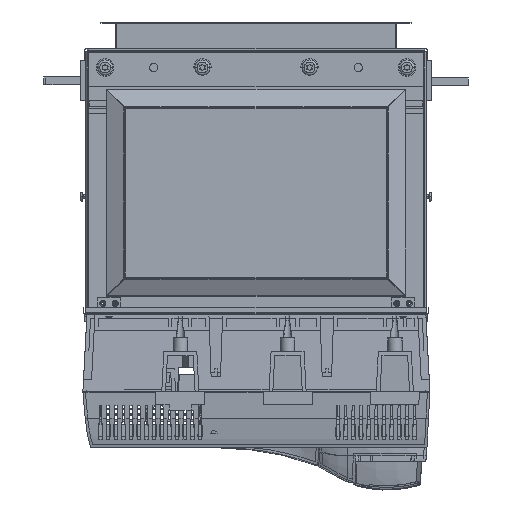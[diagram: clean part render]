
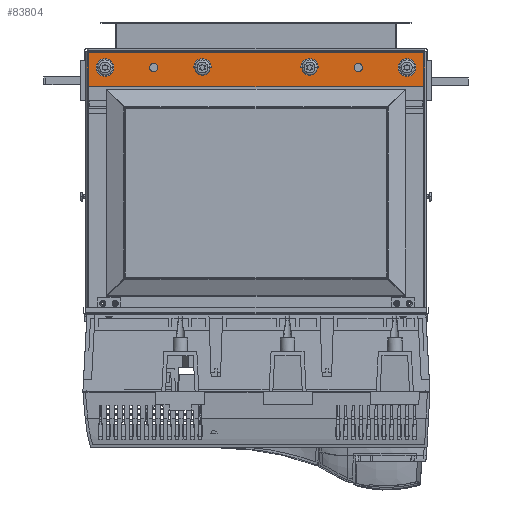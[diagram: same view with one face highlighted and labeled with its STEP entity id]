
A CAD part, front view. The second image highlights one B-rep face of the part: STEP entity #83804.
In plain terms, the highlighted planar face has unit normal (0, -1, 0).
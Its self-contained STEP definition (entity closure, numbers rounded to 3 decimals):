
#83405=DIRECTION('',(0.,0.,1.));
#83406=VECTOR('',#83405,41.5);
#83407=CARTESIAN_POINT('',(497.,347.6,-81.5));
#83408=LINE('',#83407,#83406);
#83435=CARTESIAN_POINT('',(347.,347.6,-59.5));
#83436=DIRECTION('',(0.,-1.,0.));
#83437=DIRECTION('',(-1.,0.,0.));
#83438=AXIS2_PLACEMENT_3D('',#83435,#83436,#83437);
#83440=CARTESIAN_POINT('',(347.,347.6,-59.5));
#83441=DIRECTION('',(0.,-1.,0.));
#83442=DIRECTION('',(1.,0.,0.));
#83443=AXIS2_PLACEMENT_3D('',#83440,#83441,#83442);
#83445=CARTESIAN_POINT('',(474.,347.6,-59.5));
#83446=DIRECTION('',(0.,-1.,0.));
#83447=DIRECTION('',(-1.,0.,0.));
#83448=AXIS2_PLACEMENT_3D('',#83445,#83446,#83447);
#83450=CARTESIAN_POINT('',(474.,347.6,-59.5));
#83451=DIRECTION('',(0.,-1.,0.));
#83452=DIRECTION('',(1.,0.,0.));
#83453=AXIS2_PLACEMENT_3D('',#83450,#83451,#83452);
#83455=CARTESIAN_POINT('',(207.,347.6,-59.5));
#83456=DIRECTION('',(0.,-1.,0.));
#83457=DIRECTION('',(-1.,0.,0.));
#83458=AXIS2_PLACEMENT_3D('',#83455,#83456,#83457);
#83460=CARTESIAN_POINT('',(207.,347.6,-59.5));
#83461=DIRECTION('',(0.,-1.,0.));
#83462=DIRECTION('',(1.,0.,0.));
#83463=AXIS2_PLACEMENT_3D('',#83460,#83461,#83462);
#83465=CARTESIAN_POINT('',(80.,347.6,-59.5));
#83466=DIRECTION('',(0.,-1.,0.));
#83467=DIRECTION('',(-1.,0.,0.));
#83468=AXIS2_PLACEMENT_3D('',#83465,#83466,#83467);
#83470=CARTESIAN_POINT('',(80.,347.6,-59.5));
#83471=DIRECTION('',(0.,-1.,0.));
#83472=DIRECTION('',(1.,0.,0.));
#83473=AXIS2_PLACEMENT_3D('',#83470,#83471,#83472);
#83475=CARTESIAN_POINT('',(143.5,347.6,-59.5));
#83476=DIRECTION('',(0.,-1.,0.));
#83477=DIRECTION('',(-1.,0.,0.));
#83478=AXIS2_PLACEMENT_3D('',#83475,#83476,#83477);
#83480=CARTESIAN_POINT('',(143.5,347.6,-59.5));
#83481=DIRECTION('',(0.,-1.,0.));
#83482=DIRECTION('',(1.,0.,0.));
#83483=AXIS2_PLACEMENT_3D('',#83480,#83481,#83482);
#83485=CARTESIAN_POINT('',(410.5,347.6,-59.5));
#83486=DIRECTION('',(0.,-1.,0.));
#83487=DIRECTION('',(-1.,0.,0.));
#83488=AXIS2_PLACEMENT_3D('',#83485,#83486,#83487);
#83490=CARTESIAN_POINT('',(410.5,347.6,-59.5));
#83491=DIRECTION('',(0.,-1.,0.));
#83492=DIRECTION('',(1.,0.,0.));
#83493=AXIS2_PLACEMENT_3D('',#83490,#83491,#83492);
#83495=CARTESIAN_POINT('',(60.,347.6,-81.5));
#83496=DIRECTION('',(0.,1.,0.));
#83497=DIRECTION('',(0.,0.,-1.));
#83498=AXIS2_PLACEMENT_3D('',#83495,#83496,#83497);
#83500=DIRECTION('',(1.,0.,0.));
#83501=VECTOR('',#83500,440.);
#83502=CARTESIAN_POINT('',(57.,347.6,-40.));
#83503=LINE('',#83502,#83501);
#83504=CARTESIAN_POINT('',(494.,347.6,-81.5));
#83505=DIRECTION('',(0.,1.,0.));
#83506=DIRECTION('',(1.,0.,0.));
#83507=AXIS2_PLACEMENT_3D('',#83504,#83505,#83506);
#83509=DIRECTION('',(-1.,0.,0.));
#83510=VECTOR('',#83509,434.);
#83511=CARTESIAN_POINT('',(494.,347.6,-84.5));
#83512=LINE('',#83511,#83510);
#83526=DIRECTION('',(0.,0.,1.));
#83527=VECTOR('',#83526,41.5);
#83528=CARTESIAN_POINT('',(57.,347.6,-81.5));
#83529=LINE('',#83528,#83527);
#83639=CARTESIAN_POINT('',(497.,347.6,-40.));
#83641=VERTEX_POINT('',#83639);
#83647=CARTESIAN_POINT('',(57.,347.6,-40.));
#83649=VERTEX_POINT('',#83647);
#83667=CARTESIAN_POINT('',(352.5,347.6,-59.5));
#83668=CARTESIAN_POINT('',(341.5,347.6,-59.5));
#83669=VERTEX_POINT('',#83667);
#83670=VERTEX_POINT('',#83668);
#83671=CARTESIAN_POINT('',(479.5,347.6,-59.5));
#83672=CARTESIAN_POINT('',(468.5,347.6,-59.5));
#83673=VERTEX_POINT('',#83671);
#83674=VERTEX_POINT('',#83672);
#83675=CARTESIAN_POINT('',(212.5,347.6,-59.5));
#83676=CARTESIAN_POINT('',(201.5,347.6,-59.5));
#83677=VERTEX_POINT('',#83675);
#83678=VERTEX_POINT('',#83676);
#83679=CARTESIAN_POINT('',(85.5,347.6,-59.5));
#83680=CARTESIAN_POINT('',(74.5,347.6,-59.5));
#83681=VERTEX_POINT('',#83679);
#83682=VERTEX_POINT('',#83680);
#83691=CARTESIAN_POINT('',(57.,347.6,-81.5));
#83692=CARTESIAN_POINT('',(60.,347.6,-84.5));
#83693=VERTEX_POINT('',#83691);
#83694=VERTEX_POINT('',#83692);
#83697=CARTESIAN_POINT('',(494.,347.6,-84.5));
#83698=CARTESIAN_POINT('',(497.,347.6,-81.5));
#83699=VERTEX_POINT('',#83697);
#83700=VERTEX_POINT('',#83698);
#83711=CARTESIAN_POINT('',(149.,347.6,-59.5));
#83712=CARTESIAN_POINT('',(138.,347.6,-59.5));
#83713=VERTEX_POINT('',#83711);
#83714=VERTEX_POINT('',#83712);
#83715=CARTESIAN_POINT('',(416.,347.6,-59.5));
#83716=CARTESIAN_POINT('',(405.,347.6,-59.5));
#83717=VERTEX_POINT('',#83715);
#83718=VERTEX_POINT('',#83716);
#83750=CARTESIAN_POINT('',(497.,347.6,-84.5));
#83751=DIRECTION('',(0.,-1.,0.));
#83752=DIRECTION('',(0.,0.,1.));
#83753=AXIS2_PLACEMENT_3D('',#83750,#83751,#83752);
#83754=PLANE('',#83753);
#83756=ORIENTED_EDGE('',*,*,#83755,.T.);
#83758=ORIENTED_EDGE('',*,*,#83757,.T.);
#83760=ORIENTED_EDGE('',*,*,#83759,.T.);
#83761=ORIENTED_EDGE('',*,*,#83726,.F.);
#83763=ORIENTED_EDGE('',*,*,#83762,.T.);
#83765=ORIENTED_EDGE('',*,*,#83764,.T.);
#83766=EDGE_LOOP('',(#83756,#83758,#83760,#83761,#83763,#83765));
#83767=FACE_OUTER_BOUND('',#83766,.F.);
#83769=ORIENTED_EDGE('',*,*,#83768,.T.);
#83771=ORIENTED_EDGE('',*,*,#83770,.T.);
#83772=EDGE_LOOP('',(#83769,#83771));
#83773=FACE_BOUND('',#83772,.F.);
#83775=ORIENTED_EDGE('',*,*,#83774,.T.);
#83777=ORIENTED_EDGE('',*,*,#83776,.T.);
#83778=EDGE_LOOP('',(#83775,#83777));
#83779=FACE_BOUND('',#83778,.F.);
#83781=ORIENTED_EDGE('',*,*,#83780,.T.);
#83783=ORIENTED_EDGE('',*,*,#83782,.T.);
#83784=EDGE_LOOP('',(#83781,#83783));
#83785=FACE_BOUND('',#83784,.F.);
#83787=ORIENTED_EDGE('',*,*,#83786,.T.);
#83789=ORIENTED_EDGE('',*,*,#83788,.T.);
#83790=EDGE_LOOP('',(#83787,#83789));
#83791=FACE_BOUND('',#83790,.F.);
#83793=ORIENTED_EDGE('',*,*,#83792,.T.);
#83795=ORIENTED_EDGE('',*,*,#83794,.T.);
#83796=EDGE_LOOP('',(#83793,#83795));
#83797=FACE_BOUND('',#83796,.F.);
#83799=ORIENTED_EDGE('',*,*,#83798,.T.);
#83801=ORIENTED_EDGE('',*,*,#83800,.T.);
#83802=EDGE_LOOP('',(#83799,#83801));
#83803=FACE_BOUND('',#83802,.F.);
#83804=ADVANCED_FACE('',(#83767,#83773,#83779,#83785,#83791,#83797,#83803),
#83754,.T.);
#83439=CIRCLE('',#83438,5.5);
#83444=CIRCLE('',#83443,5.5);
#83449=CIRCLE('',#83448,5.5);
#83454=CIRCLE('',#83453,5.5);
#83459=CIRCLE('',#83458,5.5);
#83464=CIRCLE('',#83463,5.5);
#83469=CIRCLE('',#83468,5.5);
#83474=CIRCLE('',#83473,5.5);
#83479=CIRCLE('',#83478,5.5);
#83484=CIRCLE('',#83483,5.5);
#83489=CIRCLE('',#83488,5.5);
#83494=CIRCLE('',#83493,5.5);
#83499=CIRCLE('',#83498,3.);
#83508=CIRCLE('',#83507,3.);
#83726=EDGE_CURVE('',#83700,#83641,#83408,.T.);
#83755=EDGE_CURVE('',#83694,#83693,#83499,.T.);
#83757=EDGE_CURVE('',#83693,#83649,#83529,.T.);
#83759=EDGE_CURVE('',#83649,#83641,#83503,.T.);
#83762=EDGE_CURVE('',#83700,#83699,#83508,.T.);
#83764=EDGE_CURVE('',#83699,#83694,#83512,.T.);
#83768=EDGE_CURVE('',#83670,#83669,#83439,.T.);
#83770=EDGE_CURVE('',#83669,#83670,#83444,.T.);
#83774=EDGE_CURVE('',#83674,#83673,#83449,.T.);
#83776=EDGE_CURVE('',#83673,#83674,#83454,.T.);
#83780=EDGE_CURVE('',#83678,#83677,#83459,.T.);
#83782=EDGE_CURVE('',#83677,#83678,#83464,.T.);
#83786=EDGE_CURVE('',#83682,#83681,#83469,.T.);
#83788=EDGE_CURVE('',#83681,#83682,#83474,.T.);
#83792=EDGE_CURVE('',#83714,#83713,#83479,.T.);
#83794=EDGE_CURVE('',#83713,#83714,#83484,.T.);
#83798=EDGE_CURVE('',#83718,#83717,#83489,.T.);
#83800=EDGE_CURVE('',#83717,#83718,#83494,.T.);
